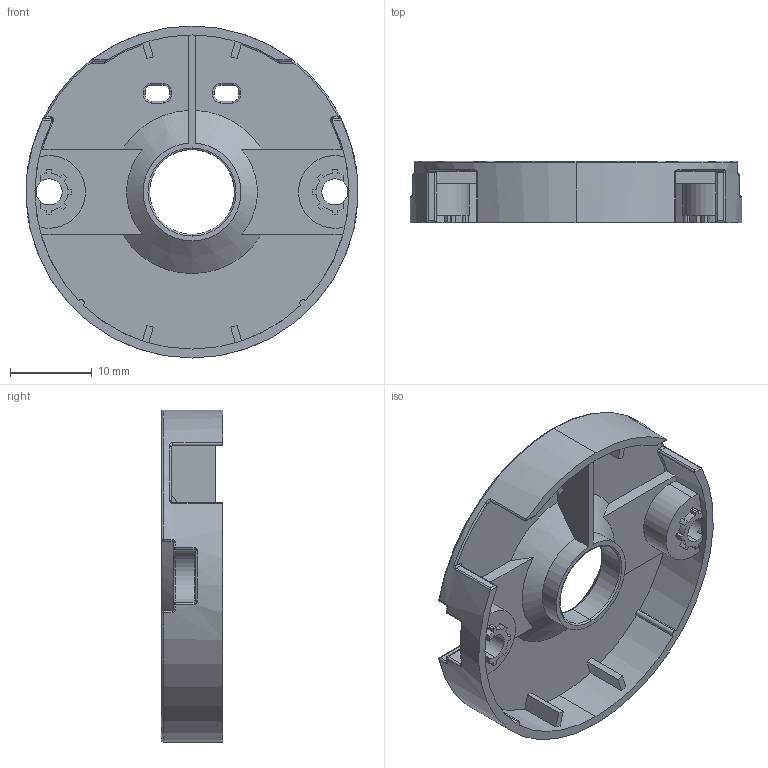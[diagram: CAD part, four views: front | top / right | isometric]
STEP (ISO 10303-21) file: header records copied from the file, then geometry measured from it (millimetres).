
FILE_DESCRIPTION (( 'STEP AP214' ), '1' );
FILE_NAME ('001948-H2.1795-A1 Holder EDC_38C.STEP', '2017-02-06T10:54:28', ( 'Admin' ), ( 'Microsoft' ), 'SwSTEP 2.0', 'SolidWorks 2017', '' );
FILE_SCHEMA (( 'AUTOMOTIVE_DESIGN' ));
Length unit declared in the file: millimetre
Products named in the file (2): 001948-H2.1795-A1 Holder EDC_38C
Bounding box: 40.64 x 7.5 x 40.69 mm (x, y, z)
Volume: 2568.7 mm3; surface area: 4702.3 mm2
Topology: 1 solids, 1 shells, 518 faces, 1381 edges, 871 vertices
Faces by surface type: plane 205, cylinder 181, bspline 62, torus 53, sphere 10, cone 7
Entity records: 17491 total; most frequent: CARTESIAN_POINT 4782, ORIENTED_EDGE 2742, DIRECTION 2558, EDGE_CURVE 1371, AXIS2_PLACEMENT_3D 911, VERTEX_POINT 871, LINE 736, VECTOR 736
